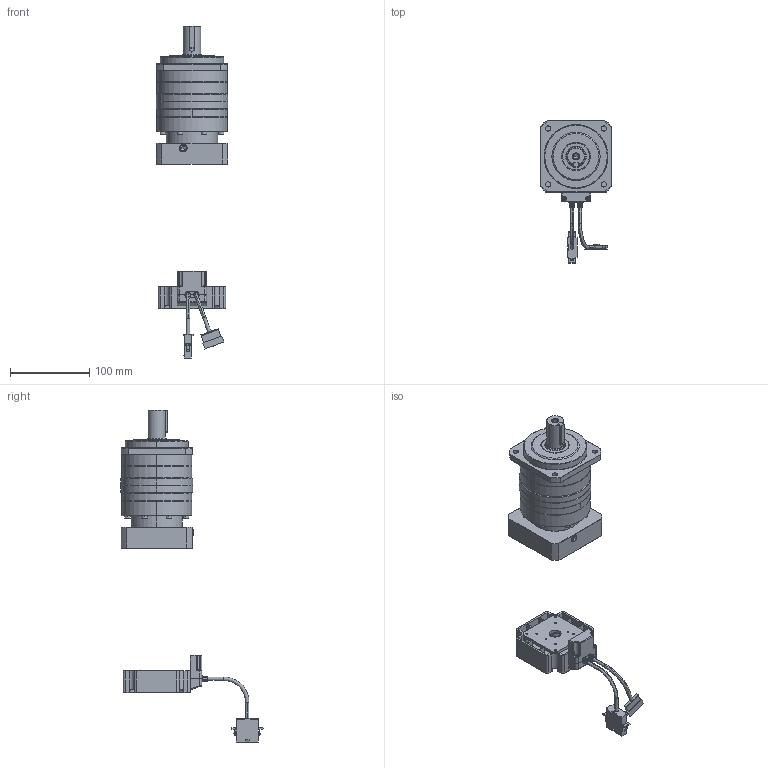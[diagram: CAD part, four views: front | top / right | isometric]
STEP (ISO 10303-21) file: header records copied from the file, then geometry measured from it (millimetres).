
FILE_DESCRIPTION (( 'STEP AP203' ), '1' );
FILE_NAME ('130416 Ezi-SERVO PG-ST-86XL-PN15~50.STEP', '2013-04-16T08:35:20', ( '' ), ( '' ), 'SwSTEP 2.0', 'SolidWorks 2012', '' );
FILE_SCHEMA (( 'CONFIG_CONTROL_DESIGN' ));
Products named in the file (15): 130416 Ezi-SERVO PG-ST-86XL-PN15~50; ST86 2ST; Main_EzM-86L-assembly___-1; Main_EzM-86L___-1; Main_EZSV_86_cable_Cover___-1_1; Main_EZSV_86_Encoder_Cover___-1_1; Main_86_Encoder_Plate___-1_1; Main_M3-screw6___-1_1; Main_M3-screw1___-1_1; Main_M3-screw4___-1_1; Main_M3-screw2___-1_1; Main_M3-screw3___-1_1; Main_M3-screw5___-1_1; Main_Power Cable 86___-1_1; Main_connector_e___-1_1
Assembly tree (14 placements, depth 3):
  130416 Ezi-SERVO PG-ST-86XL-PN15~50
    Main_EzM-86L-assembly___-1
      Main_connector_e___-1_1
      Main_Power Cable 86___-1_1
      Main_M3-screw5___-1_1
      Main_M3-screw3___-1_1
      Main_M3-screw2___-1_1
      Main_M3-screw4___-1_1
      Main_M3-screw1___-1_1
      Main_M3-screw6___-1_1
      Main_86_Encoder_Plate___-1_1
      Main_EZSV_86_Encoder_Cover___-1_1
      Main_EZSV_86_cable_Cover___-1_1
      Main_EzM-86L___-1
    ST86 2ST
Bounding box: 91 x 180.24 x 420 mm (x, y, z)
Volume: 866822.7 mm3; surface area: 140095.1 mm2
Topology: 12 solids, 12 shells, 1188 faces, 3047 edges, 1913 vertices
Faces by surface type: plane 618, cylinder 364, cone 113, bspline 48, torus 45
Entity records: 48226 total; most frequent: CARTESIAN_POINT 14295, ORIENTED_EDGE 6820, DIRECTION 6597, EDGE_CURVE 3411, AXIS2_PLACEMENT_3D 2323, VERTEX_POINT 2196, VECTOR 1951, LINE 1951
